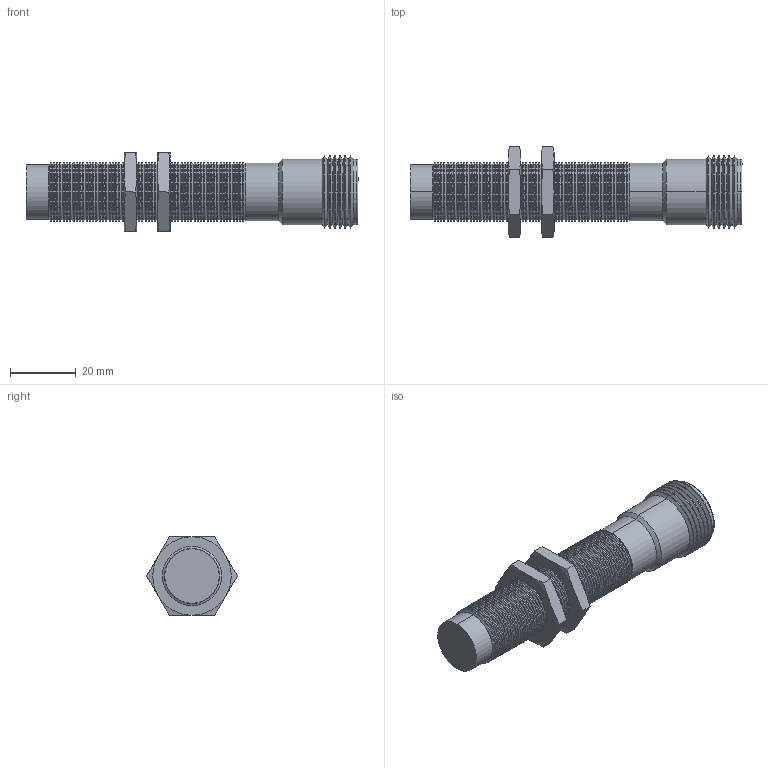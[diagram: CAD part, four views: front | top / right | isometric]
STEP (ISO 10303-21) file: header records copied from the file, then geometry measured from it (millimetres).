
FILE_DESCRIPTION (( 'STEP AP203' ), '1' );
FILE_NAME ('90-XXXX-025.STEP', '2015-10-28T13:18:36', ( 'Sam' ), ( 'Spade' ), 'SwSTEP 2.0', 'SolidWorks 2002296', '' );
FILE_SCHEMA (( 'CONFIG_CONTROL_DESIGN' ));
Length unit declared in the file: inch
Products named in the file (10): 90-XXXX-025; Imported249; Imported248; Imported247; Imported246; Imported244; Imported245; Imported251; Imported250; Imported243
Assembly tree (9 placements, depth 2):
  90-XXXX-025
    Imported250
    Imported249
    Imported243
    Imported245
    Imported247
    Imported248
    Imported244
    Imported251
    Imported246
Bounding box: 101.35 x 27.69 x 23.98 mm (x, y, z)
Volume: 26718.3 mm3; surface area: 14586.4 mm2
Topology: 9 solids, 9 shells, 647 faces, 1321 edges, 710 vertices
Faces by surface type: cone 334, cylinder 250, plane 55, bspline 8
Entity records: 17831 total; most frequent: DIRECTION 3249, CARTESIAN_POINT 2984, ORIENTED_EDGE 2630, AXIS2_PLACEMENT_3D 1335, EDGE_CURVE 1315, VERTEX_POINT 710, CIRCLE 684, EDGE_LOOP 675
